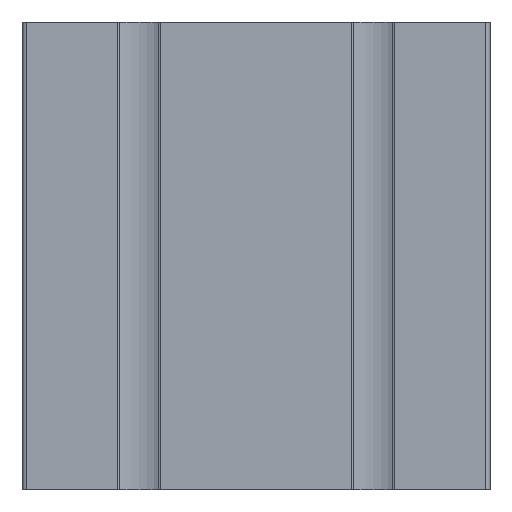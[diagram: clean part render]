
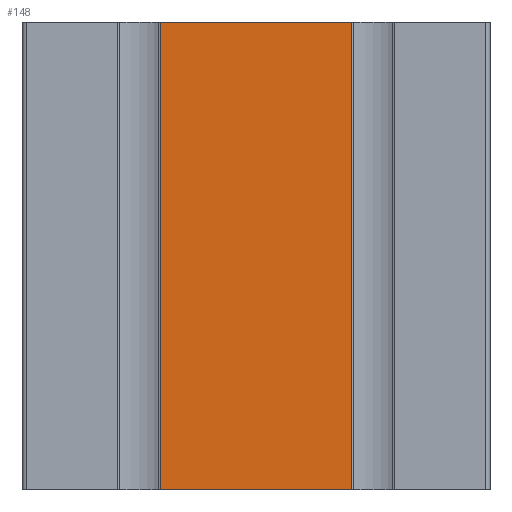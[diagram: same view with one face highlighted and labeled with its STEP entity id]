
A CAD part, front view. The second image highlights one B-rep face of the part: STEP entity #148.
In plain terms, the highlighted planar face has unit normal (0, -1, 0).
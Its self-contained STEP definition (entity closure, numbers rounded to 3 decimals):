
#148 = ADVANCED_FACE ( 'NONE', ( #3764 ), #1682, .T. ) ;
#260 = LINE ( 'NONE', #5330, #4388 ) ;
#398 = VERTEX_POINT ( 'NONE', #3855 ) ;
#452 = CARTESIAN_POINT ( 'NONE',  ( -20.5, -50., -100. ) ) ;
#680 = AXIS2_PLACEMENT_3D ( 'NONE', #2406, #4105, #2010 ) ;
#945 = DIRECTION ( 'NONE',  ( 1., 0., 0. ) ) ;
#994 = ORIENTED_EDGE ( 'NONE', *, *, #1857, .T. ) ;
#1381 = VECTOR ( 'NONE', #945, 1000. ) ;
#1559 = ORIENTED_EDGE ( 'NONE', *, *, #3601, .T. ) ;
#1682 = PLANE ( 'NONE',  #680 ) ;
#1687 = CARTESIAN_POINT ( 'NONE',  ( -20.5, -50., 0. ) ) ;
#1744 = VECTOR ( 'NONE', #2141, 1000. ) ;
#1751 = LINE ( 'NONE', #1687, #1381 ) ;
#1857 = EDGE_CURVE ( 'NONE', #5296, #398, #260, .T. ) ;
#2010 = DIRECTION ( 'NONE',  ( 0., 0., -1. ) ) ;
#2141 = DIRECTION ( 'NONE',  ( 0., 0., 1. ) ) ;
#2309 = EDGE_LOOP ( 'NONE', ( #5000, #5369, #1559, #994 ) ) ;
#2406 = CARTESIAN_POINT ( 'NONE',  ( -20.5, -50., -100. ) ) ;
#2488 = DIRECTION ( 'NONE',  ( 1., 0., 0. ) ) ;
#2626 = VECTOR ( 'NONE', #2488, 1000. ) ;
#2791 = LINE ( 'NONE', #3245, #2626 ) ;
#3002 = CARTESIAN_POINT ( 'NONE',  ( 20.5, -50., -100. ) ) ;
#3013 = LINE ( 'NONE', #452, #1744 ) ;
#3245 = CARTESIAN_POINT ( 'NONE',  ( -20.5, -50., -100. ) ) ;
#3285 = EDGE_CURVE ( 'NONE', #5170, #5480, #3013, .T. ) ;
#3291 = CARTESIAN_POINT ( 'NONE',  ( -20.5, -50., -100. ) ) ;
#3303 = EDGE_CURVE ( 'NONE', #5480, #398, #1751, .T. ) ;
#3601 = EDGE_CURVE ( 'NONE', #5170, #5296, #2791, .T. ) ;
#3682 = CARTESIAN_POINT ( 'NONE',  ( -20.5, -50., 0. ) ) ;
#3764 = FACE_OUTER_BOUND ( 'NONE', #2309, .T. ) ;
#3855 = CARTESIAN_POINT ( 'NONE',  ( 20.5, -50., 0. ) ) ;
#4105 = DIRECTION ( 'NONE',  ( 0., -1., 0. ) ) ;
#4388 = VECTOR ( 'NONE', #4908, 1000. ) ;
#4908 = DIRECTION ( 'NONE',  ( 0., 0., 1. ) ) ;
#5000 = ORIENTED_EDGE ( 'NONE', *, *, #3303, .F. ) ;
#5170 = VERTEX_POINT ( 'NONE', #3291 ) ;
#5296 = VERTEX_POINT ( 'NONE', #3002 ) ;
#5330 = CARTESIAN_POINT ( 'NONE',  ( 20.5, -50., -100. ) ) ;
#5369 = ORIENTED_EDGE ( 'NONE', *, *, #3285, .F. ) ;
#5480 = VERTEX_POINT ( 'NONE', #3682 ) ;
